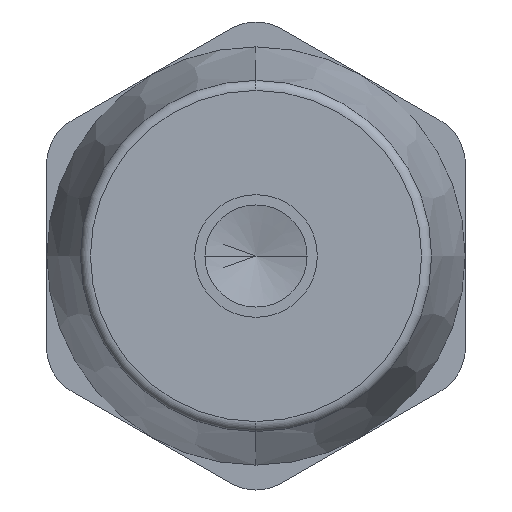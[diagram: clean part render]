
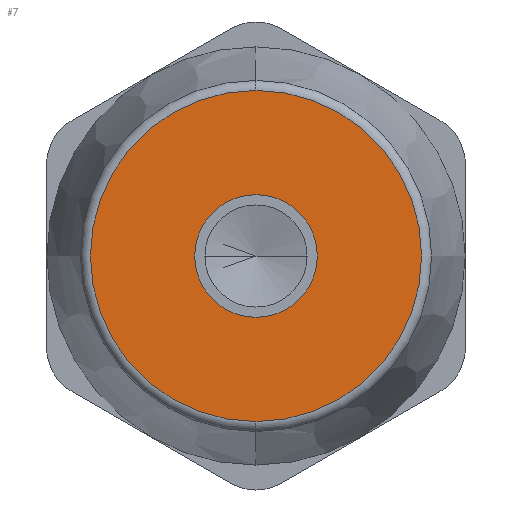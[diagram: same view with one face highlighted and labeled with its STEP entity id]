
A CAD part, front view. The second image highlights one B-rep face of the part: STEP entity #7.
In plain terms, the highlighted planar face has unit normal (0, -1, 0).
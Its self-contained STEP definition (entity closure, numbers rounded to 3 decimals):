
#7 = ADVANCED_FACE ( 'NONE', ( #586, #50 ), #561, .F. ) ;
#50 = FACE_OUTER_BOUND ( 'NONE', #1206, .T. ) ;
#54 = EDGE_LOOP ( 'NONE', ( #2367, #924 ) ) ;
#57 = ORIENTED_EDGE ( 'NONE', *, *, #1740, .T. ) ;
#128 = ORIENTED_EDGE ( 'NONE', *, *, #1026, .T. ) ;
#192 = DIRECTION ( 'NONE',  ( -1., 0., 0. ) ) ;
#236 = DIRECTION ( 'NONE',  ( 0., 1., 0. ) ) ;
#240 = CARTESIAN_POINT ( 'NONE',  ( -6., 0., 0. ) ) ;
#365 = VERTEX_POINT ( 'NONE', #1342 ) ;
#380 = AXIS2_PLACEMENT_3D ( 'NONE', #2218, #544, #2192 ) ;
#405 = CARTESIAN_POINT ( 'NONE',  ( 20.5, 0., -11.836 ) ) ;
#438 = AXIS2_PLACEMENT_3D ( 'NONE', #405, #236, #1690 ) ;
#544 = DIRECTION ( 'NONE',  ( 0., -1., 0. ) ) ;
#561 = PLANE ( 'NONE',  #438 ) ;
#586 = FACE_BOUND ( 'NONE', #54, .T. ) ;
#603 = VERTEX_POINT ( 'NONE', #662 ) ;
#662 = CARTESIAN_POINT ( 'NONE',  ( 0., 0., 16.205 ) ) ;
#736 = EDGE_CURVE ( 'NONE', #847, #984, #1578, .T. ) ;
#748 = CARTESIAN_POINT ( 'NONE',  ( 0., 0., 0. ) ) ;
#847 = VERTEX_POINT ( 'NONE', #240 ) ;
#892 = AXIS2_PLACEMENT_3D ( 'NONE', #748, #1316, #192 ) ;
#924 = ORIENTED_EDGE ( 'NONE', *, *, #1052, .T. ) ;
#984 = VERTEX_POINT ( 'NONE', #2395 ) ;
#1026 = EDGE_CURVE ( 'NONE', #365, #603, #1435, .T. ) ;
#1047 = CARTESIAN_POINT ( 'NONE',  ( 0., 0., 0. ) ) ;
#1052 = EDGE_CURVE ( 'NONE', #984, #847, #2049, .T. ) ;
#1070 = CARTESIAN_POINT ( 'NONE',  ( 0., 0., 0. ) ) ;
#1192 = AXIS2_PLACEMENT_3D ( 'NONE', #1070, #1603, #2142 ) ;
#1206 = EDGE_LOOP ( 'NONE', ( #57, #128 ) ) ;
#1316 = DIRECTION ( 'NONE',  ( 0., 1., 0. ) ) ;
#1342 = CARTESIAN_POINT ( 'NONE',  ( 0., 0., -16.205 ) ) ;
#1435 = CIRCLE ( 'NONE', #380, 16.205 ) ;
#1500 = AXIS2_PLACEMENT_3D ( 'NONE', #1047, #1791, #2350 ) ;
#1578 = CIRCLE ( 'NONE', #1500, 6. ) ;
#1603 = DIRECTION ( 'NONE',  ( 0., -1., 0. ) ) ;
#1690 = DIRECTION ( 'NONE',  ( 0., 0., 1. ) ) ;
#1740 = EDGE_CURVE ( 'NONE', #603, #365, #2353, .T. ) ;
#1791 = DIRECTION ( 'NONE',  ( 0., 1., 0. ) ) ;
#2049 = CIRCLE ( 'NONE', #892, 6. ) ;
#2142 = DIRECTION ( 'NONE',  ( 0., 0., 1. ) ) ;
#2192 = DIRECTION ( 'NONE',  ( 0., 0., 1. ) ) ;
#2218 = CARTESIAN_POINT ( 'NONE',  ( 0., 0., 0. ) ) ;
#2350 = DIRECTION ( 'NONE',  ( -1., 0., 0. ) ) ;
#2353 = CIRCLE ( 'NONE', #1192, 16.205 ) ;
#2367 = ORIENTED_EDGE ( 'NONE', *, *, #736, .T. ) ;
#2395 = CARTESIAN_POINT ( 'NONE',  ( 6., 0., 0. ) ) ;
